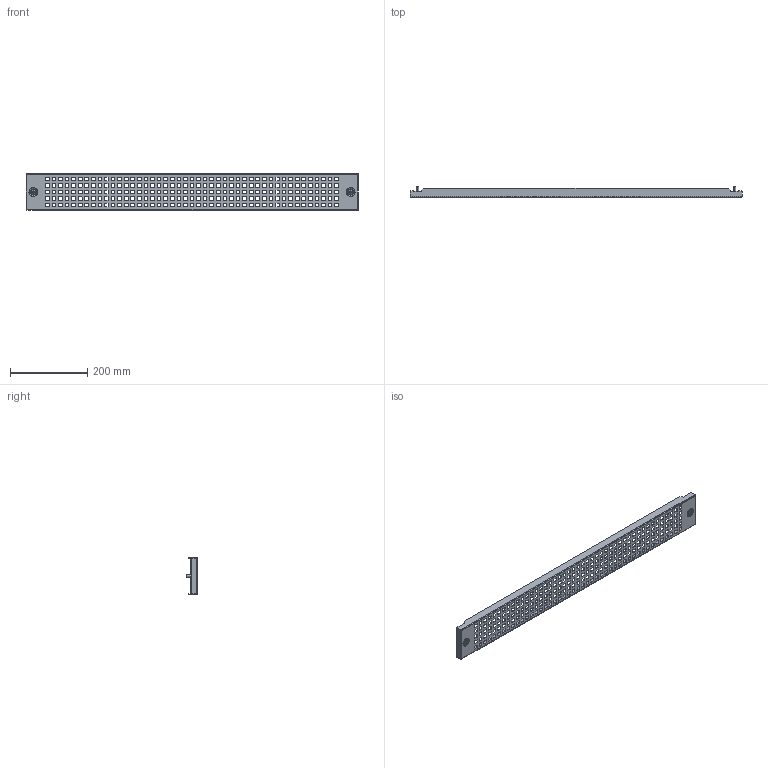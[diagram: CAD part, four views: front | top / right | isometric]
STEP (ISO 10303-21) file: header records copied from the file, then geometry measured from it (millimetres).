
FILE_DESCRIPTION (( 'STEP AP203' ), '1' );
FILE_NAME ('Z 100.1000 IP Ïàíåëü áîêîâàÿ ñ âåíòèëÿöèåé öîêîëÿ òåëåêîììóíèêàöèîííîãî.STEP', '2013-01-12T07:22:34', ( 'System' ), ( '' ), 'SwSTEP 2.0', 'SolidWorks 2012', '' );
FILE_SCHEMA (( 'CONFIG_CONTROL_DESIGN' ));
Length unit declared in the file: millimetre
Products named in the file (1): Z 100.1000 IP Ïàíåëü áîêîâàÿ ñ âåíòèëÿöèåé öîêîëÿ òåëåêîììóíèêàöèîííîãî
Bounding box: 858 x 28.02 x 94 mm (x, y, z)
Volume: 122797.4 mm3; surface area: 215443.9 mm2
Topology: 3 solids, 3 shells, 1934 faces, 5716 edges, 3794 vertices
Faces by surface type: plane 966, cylinder 924, torus 24, cone 16, sphere 4
Entity records: 65993 total; most frequent: DIRECTION 11506, CARTESIAN_POINT 11465, ORIENTED_EDGE 11424, EDGE_CURVE 5712, AXIS2_PLACEMENT_3D 3867, VERTEX_POINT 3794, VECTOR 3772, LINE 3772
